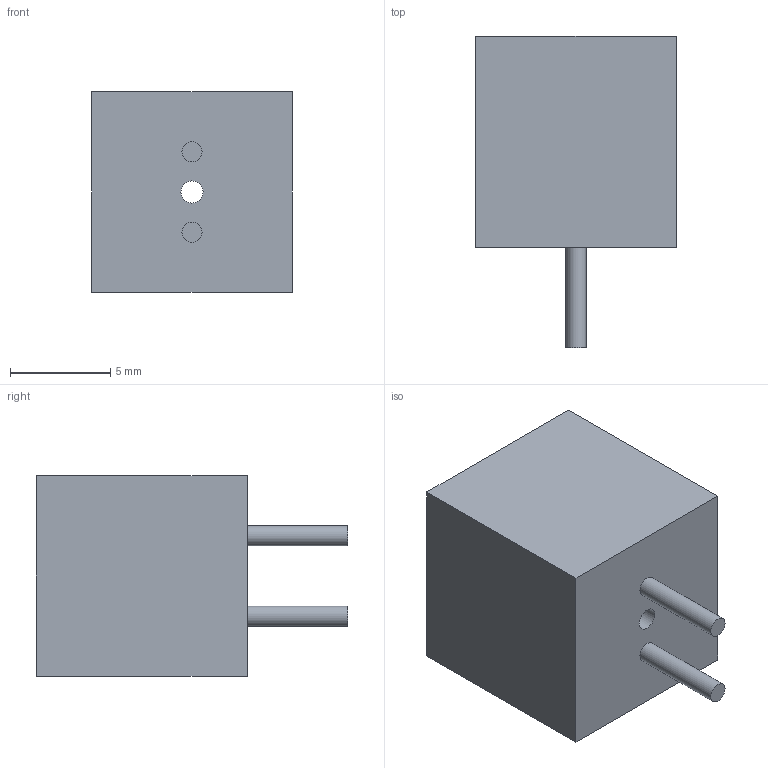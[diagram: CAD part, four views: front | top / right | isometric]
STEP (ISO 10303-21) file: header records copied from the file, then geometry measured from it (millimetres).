
FILE_DESCRIPTION(/* description */ (''),/* implementation_level */ '2;1');
FILE_NAME(/* name */ 'Supp_Fibra_1mm.step',/* time_stamp */ '2023-03-13T17:22:40+01:00',/* author */ (''),/* organization */ (''),/* preprocessor_version */ 'ST-DEVELOPER v19.2',/* originating_system */ 'Autodesk Translation Framework v11.17.0.187',/* authorisation */ '');
FILE_SCHEMA (('AUTOMOTIVE_DESIGN { 1 0 10303 214 3 1 1 }'));
Length unit declared in the file: millimetre
Products named in the file (1): _Supp_Fibra_1mm_rev01
Bounding box: 10 x 15.5 x 10 mm (x, y, z)
Volume: 1047.9 mm3; surface area: 685.8 mm2
Topology: 1 solids, 1 shells, 11 faces, 21 edges, 14 vertices
Faces by surface type: plane 8, cylinder 3
Full cylindrical faces by diameter (mm): 1 x2, 1.1 x1
Entity records: 318 total; most frequent: DIRECTION 51, CARTESIAN_POINT 47, ORIENTED_EDGE 42, EDGE_CURVE 21, AXIS2_PLACEMENT_3D 18, EDGE_LOOP 15, LINE 15, VECTOR 15
